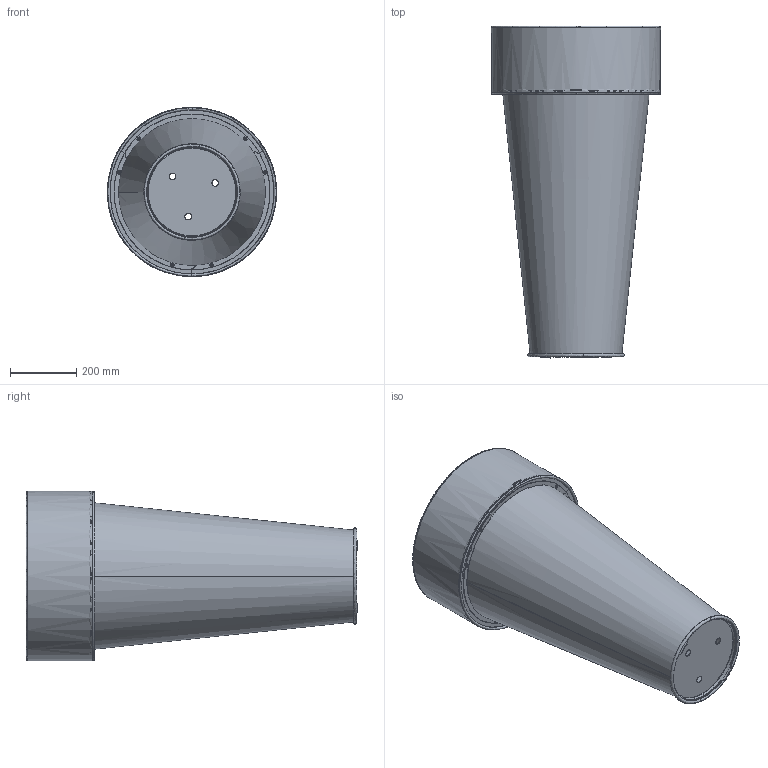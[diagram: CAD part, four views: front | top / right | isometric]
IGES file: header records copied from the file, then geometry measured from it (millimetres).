
Start section: SolidWorks IGES file using analytic representation for surfaces
Global section: file name: C:\VaultDeCastelli\Progetti\DC\PESO LEGGERO PRODOTTI\Ale\DeCastelli-3D-Delta 98.igs; native system: SolidWorks 2022; preprocessor: SolidWorks 2022; author: AlessandroP; date: 240802.102804; units: millimetre
Bounding box: 509.12 x 998.14 x 509.12 mm (x, y, z)
Surface area: 3026191.3 mm2 (no closed solid volume)
Topology: 0 solids, 0 shells, 122 faces, 2972 edges, 2972 vertices
Faces by surface type: bspline 72, revolution 50
